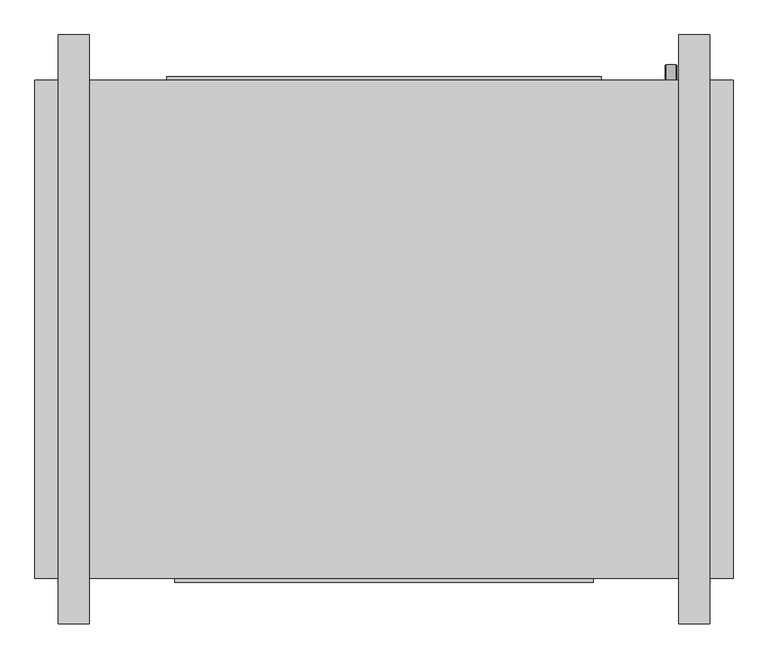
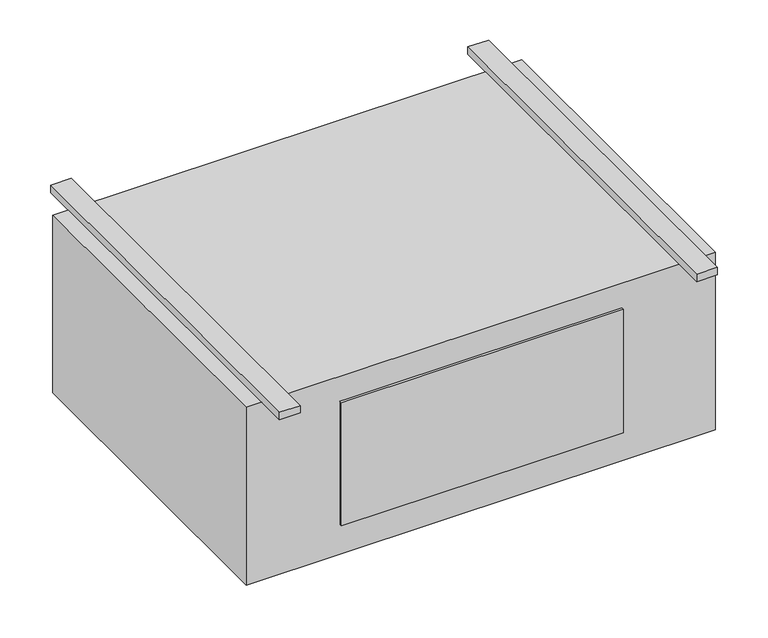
"""IFC4 building model written with IfcOpenShell, lengths in millimetres: proxy geometry, Exposed_High_Capacity_Horizontal_Cabinet_Fan_Coil_Unit_-_42DFA_-_CARRIER_-_2-Pipe_Cool-EHeat_RH_2022 : Size 12 - 277v/60Hz/1Ph - 6 Row 9.0kW."""

from ifc_helpers import new_model, si_unit, point, frame, frame_2d, origin, origin_with_axes, place, context, project, spatial, polyline, circle_curve, trimmed, segment, composite_curve, outline, extrude, source, transform, mapped, element, save


def mechanical_equipment_a8f203a1(model_context):
    return source(origin(), model_context, "Body", "SweptSolid", [
        extrude(outline(composite_curve([segment(trimmed(circle_curve(frame_2d((-406.4, 622.3)), 9.525), [point((-406.4, 612.775))], [point((-406.4, 631.825))], False, "CARTESIAN"), True, "CONTINUOUS"), segment(trimmed(circle_curve(frame_2d((-406.4, 622.3)), 9.525), [point((-406.4, 631.825))], [point((-406.4, 612.775))], False, "CARTESIAN"), True, "CONTINUOUS")], self_intersect=False)), frame((0.0, 169.8625, 0.0), z_axis=(0.0, 1.0, 0.0), x_axis=(0.0, 0.0, 1.0)), (0.0, 0.0, 1.0), 25.4),
        extrude(outline(composite_curve([segment(trimmed(circle_curve(frame_2d((-330.2, 622.3)), 7.9375), [point((-330.2, 614.3625))], [point((-330.2, 630.2375))], False, "CARTESIAN"), True, "CONTINUOUS"), segment(trimmed(circle_curve(frame_2d((-330.2, 622.3)), 7.9375), [point((-330.2, 630.2375))], [point((-330.2, 614.3625))], False, "CARTESIAN"), True, "CONTINUOUS")], self_intersect=False)), frame((0.0, 169.8625, 0.0), z_axis=(0.0, 1.0, 0.0), x_axis=(0.0, 0.0, 1.0)), (0.0, 0.0, 1.0), 25.4),
        extrude(outline(composite_curve([segment(trimmed(circle_curve(frame_2d((-254.0, 622.3)), 7.9375), [point((-254.0, 614.3625))], [point((-254.0, 630.2375))], False, "CARTESIAN"), True, "CONTINUOUS"), segment(trimmed(circle_curve(frame_2d((-254.0, 622.3)), 7.9375), [point((-254.0, 630.2375))], [point((-254.0, 614.3625))], False, "CARTESIAN"), True, "CONTINUOUS")], self_intersect=False)), frame((0.0, 169.8625, 0.0), z_axis=(0.0, 1.0, 0.0), x_axis=(0.0, 0.0, 1.0)), (0.0, 0.0, 1.0), 25.4),
        extrude(outline(polyline([(723.9, 169.8625), (723.9, -646.1125), (-419.1, -646.1125), (-419.1, 169.8625), (723.9, 169.8625)])), frame((0.0, 0.0, -457.2), z_axis=(0.0, 0.0, 1.0), x_axis=(1.0, 0.0, 0.0)), (0.0, 0.0, 1.0), 457.2),
        extrude(outline(polyline([(-203.2, 176.2125), (508.0, 176.2125), (508.0, 169.8625), (-203.2, 169.8625), (-203.2, 176.2125)])), frame((0.0, 0.0, -381.0), z_axis=(0.0, 0.0, 1.0), x_axis=(1.0, 0.0, 0.0)), (0.0, 0.0, 1.0), 355.6),
        extrude(outline(polyline([(-330.2, 244.475), (-330.2, -720.725), (-381.0, -720.725), (-381.0, 244.475), (-330.2, 244.475)])), origin_with_axes(), (0.0, 0.0, 1.0), 19.05),
        extrude(outline(polyline([(685.8, 244.475), (685.8, -720.725), (635.0, -720.725), (635.0, 244.475), (685.8, 244.475)])), origin_with_axes(), (0.0, 0.0, 1.0), 19.05),
        extrude(outline(polyline([(495.3, -652.4625), (-190.5, -652.4625), (-190.5, -646.1125), (495.3, -646.1125), (495.3, -652.4625)])), frame((0.0, 0.0, -381.0), z_axis=(0.0, 0.0, 1.0), x_axis=(1.0, 0.0, 0.0)), (0.0, 0.0, 1.0), 317.5),
    ])


if __name__ == "__main__":
    model = new_model("IFC4")
    model_context = context("Model", 3, world=origin())
    ifc_project = project(units=[si_unit("LENGTHUNIT", "METRE", prefix="MILLI")], contexts=[model_context])
    site = spatial("IfcSite", under=ifc_project)
    building = spatial("IfcBuilding", under=site)
    placement = place(None, origin())
    mechanical_equipment_shape = mechanical_equipment_a8f203a1(model_context)
    element("IfcBuildingElementProxy", 1, Name="Exposed_High_Capacity_Horizontal_Cabinet_Fan_Coil_Unit_-_42DFA_-_CARRIER_-_2-Pipe_Cool-EHeat_RH_2022 : Size 12 - 277v/60Hz/1Ph - 6 Row 9.0kW", ObjectType="Exposed_High_Capacity_Horizontal_Cabinet_Fan_Coil_Unit_-_42DFA_-_CARRIER_-_2-Pipe_Cool-EHeat_RH_2022 : Size 12 - 277v/60Hz/1Ph - 6 Row 9.0kW", at=placement, inside=building, context=model_context, shape_type="MappedRepresentation", body=[
        mapped(mechanical_equipment_shape, transform((0.0, 0.0, 0.0), x_axis=(1.0, 0.0, 0.0), y_axis=(0.0, 1.0, 0.0), z_axis=(0.0, 0.0, 1.0))),
    ])
    save(model, "model.ifc")
